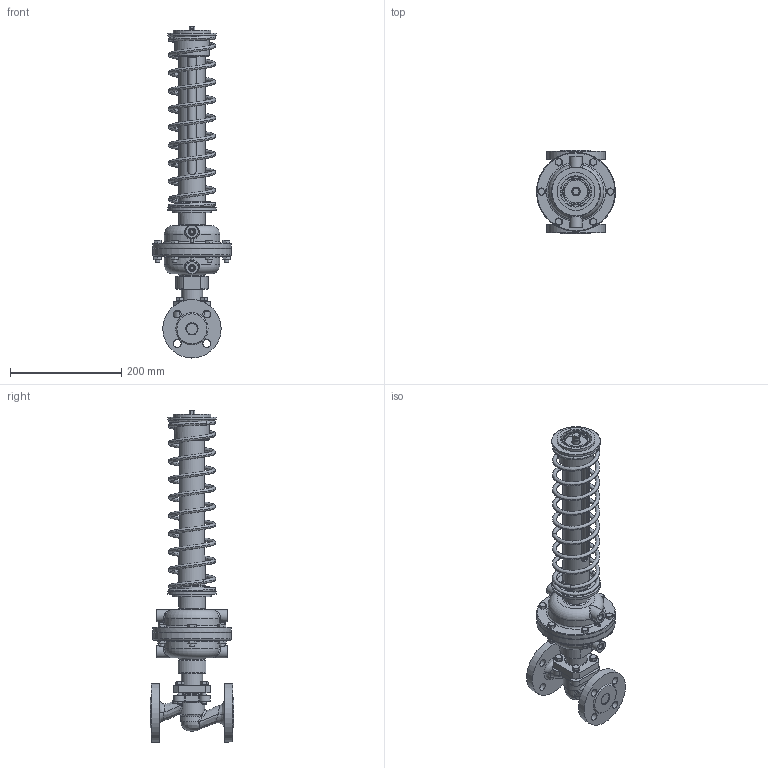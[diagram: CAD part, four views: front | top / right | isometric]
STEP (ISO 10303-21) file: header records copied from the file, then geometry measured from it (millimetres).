
FILE_DESCRIPTION(/* description */ (''),/* implementation_level */ '2;1');
FILE_NAME(/* name */ 'G:\Работа\library\3d база\Клапаны КПСР3d\Клапаны КПСР3d\2. В работе\1. РА\old\2017.06.06 Разборные исправленыне\Готовые\РА Ду 20.stp',/* time_stamp */ '2017-06-06T14:57:21+03:00',/* author */ ('User'),/* organization */ ('unknown'),/* preprocessor_version */ 'ST-DEVELOPER v16.13',/* originating_system */ 'Autodesk Inventor 2018',/* authorisation */ '');
FILE_SCHEMA (('AUTOMOTIVE_DESIGN { 1 0 10303 214 3 1 1 }'));
Products named in the file (1): РА Ду 20
Bounding box: 142 x 150 x 597.34 mm (x, y, z)
Volume: 1453841 mm3; surface area: 411765.3 mm2
Topology: 2 solids, 15 shells, 648 faces, 1536 edges, 978 vertices
Faces by surface type: plane 247, cylinder 173, cone 89, bspline 86, torus 49, sphere 4
Full cylindrical faces by diameter (mm): 2 x1, 4 x1, 5 x1, 6.5 x1, 7 x4, 8 x20, 9 x6, 10.5 x4, 11 x2, 12 x2, 12.2 x4, 13.7 x1, 14 x9, 14.5 x1, 15 x3, 16 x1, 17 x1, 20 x4, 22 x4, 28 x1, 30 x1, 38 x2, 40 x1, 41 x1, 42 x7, 42.7 x1, 46 x2, 48 x4, 48.5 x1, 52 x1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
Entity records: 40701 total; most frequent: CARTESIAN_POINT 28080, DIRECTION 2466, ORIENTED_EDGE 2370, EDGE_CURVE 1179, AXIS2_PLACEMENT_3D 1070, EDGE_LOOP 1013, VERTEX_POINT 852, FACE_OUTER_BOUND 647
